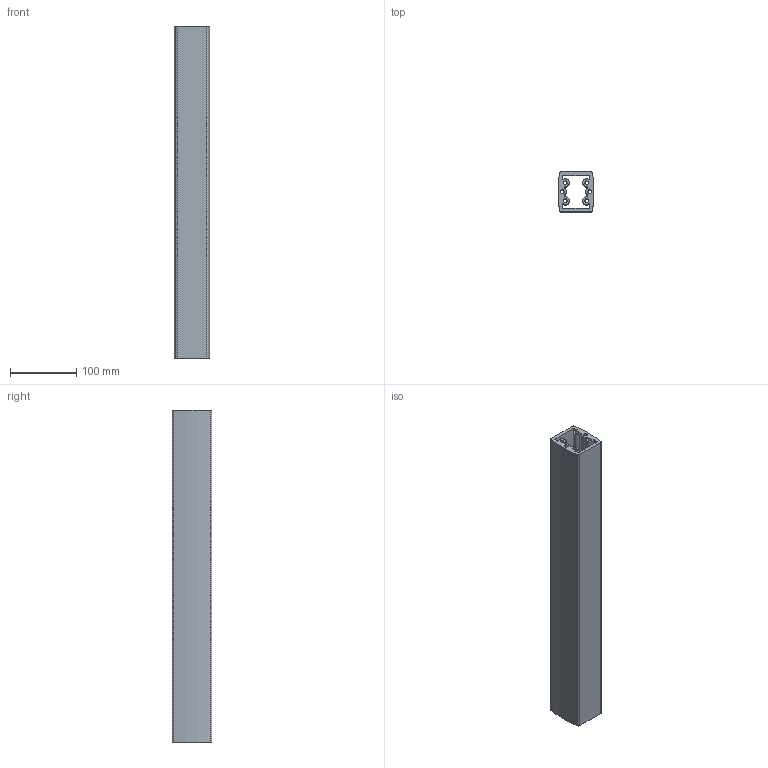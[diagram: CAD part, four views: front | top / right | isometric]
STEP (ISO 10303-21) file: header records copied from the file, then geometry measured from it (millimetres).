
FILE_DESCRIPTION((''),'2;1');
FILE_NAME('9524030000_ASM','2024-03-21T11:15:01',('dirk.bredemeier'),(''),'CREO PARAMETRIC BY PTC INC, 2022124','CREO PARAMETRIC BY PTC INC, 2022124','');
FILE_SCHEMA(('AUTOMOTIVE_DESIGN { 1 0 10303 214 1 1 1 1 }'));
Length unit declared in the file: millimetre
Products named in the file (2): 9206099000_AF7; 9524030000_ASM
Assembly tree (1 placements, depth 2):
  9524030000_ASM
    9206099000_AF7
Bounding box: 53.58 x 60 x 500 mm (x, y, z)
Volume: 755989.9 mm3; surface area: 283250.1 mm2
Topology: 1 solids, 1 shells, 46 faces, 167 edges, 158 vertices
Faces by surface type: cylinder 40, plane 6
Entity records: 3375 total; most frequent: CARTESIAN_POINT 700, DIRECTION 471, ORIENTED_EDGE 264, PRESENTATION_STYLE_ASSIGNMENT 210, CURVE_STYLE 206, STYLED_ITEM 206, AXIS2_PLACEMENT_3D 186, COLOUR_RGB 145
